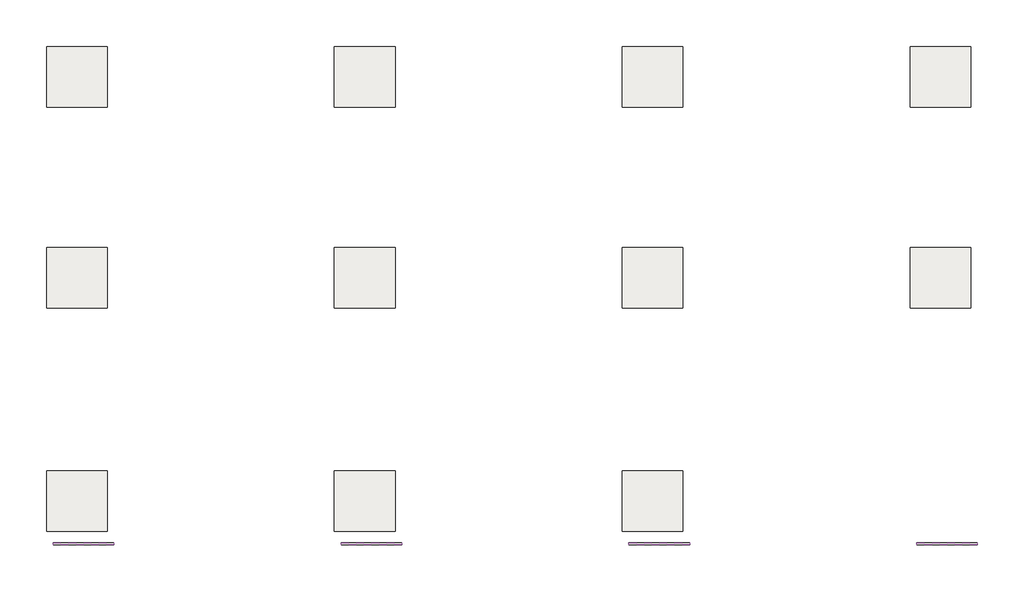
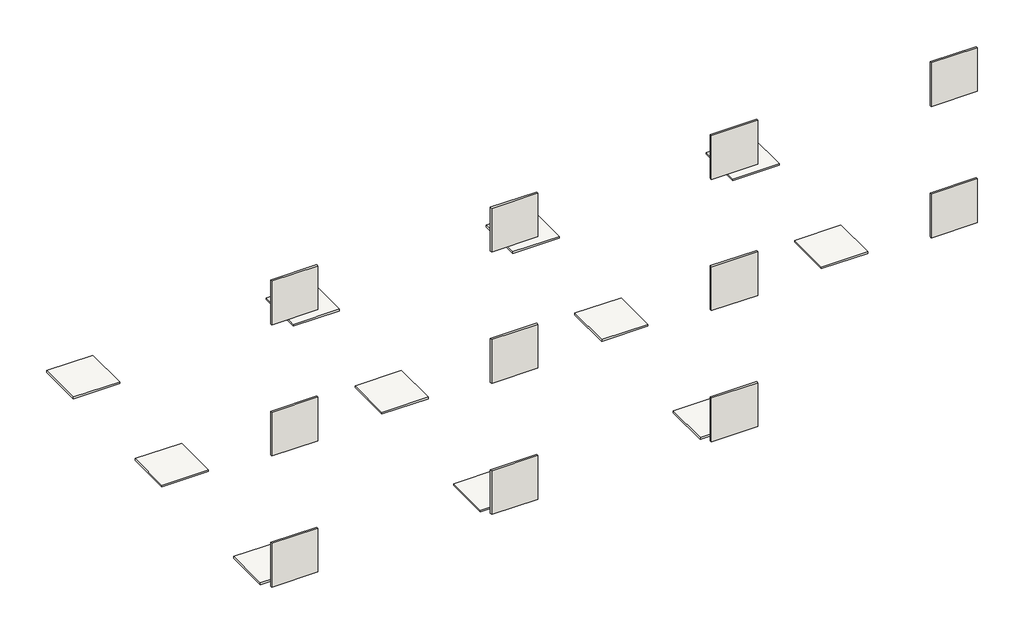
# One storey: 11 slabs, 11 walls.
"""IFC4 building model written with IfcOpenShell, lengths in millimetres."""

from ifc_helpers import new_model, si_unit, frame, origin, origin_with_axes, place, context, project, spatial, polyline, outline, extrude, element, save

model = new_model("IFC4")

# Units and contexts
model_context = context("Model", 3, world=origin())
ifc_project = project(units=[si_unit("LENGTHUNIT", "METRE", prefix="MILLI")], contexts=[model_context])

# Site, building, storey
site = spatial("IfcSite", under=ifc_project)
building = spatial("IfcBuilding", under=site)
storey = spatial("IfcBuildingStorey", under=building, Name="SVENSKA FLOOR TILES", Elevation=0.0)

# Slabs
placement = place(None, origin())
element("IfcSlab", 1, ObjectType="VIVES - BLOMKNOPP BONE 20x20", at=placement, inside=storey, context=model_context, shape_type="SweptSolid", body=[
    extrude(outline(polyline([(177.760057, 778.9042777), (-22.239943, 778.9042777), (-22.239943, 978.9042777), (177.760057, 978.9042777), (177.760057, 778.9042777)])), frame((0.0, 0.0, -8.0), z_axis=(0.0, 0.0, 1.0), x_axis=(1.0, 0.0, 0.0)), (0.0, 0.0, 1.0), 8.0),
])
element("IfcSlab", 2, ObjectType="VIVES - BLOMKNOPP SIENA 20x20", at=placement, inside=storey, context=model_context, shape_type="SweptSolid", body=[
    extrude(outline(polyline([(1127.760057, 778.9042777), (927.760057, 778.9042777), (927.760057, 978.9042777), (1127.760057, 978.9042777), (1127.760057, 778.9042777)])), frame((0.0, 0.0, -8.0), z_axis=(0.0, 0.0, 1.0), x_axis=(1.0, 0.0, 0.0)), (0.0, 0.0, 1.0), 8.0),
])
element("IfcSlab", 3, ObjectType="VIVES - ETT 20x20", at=placement, inside=storey, context=model_context, shape_type="SweptSolid", body=[
    extrude(outline(polyline([(2077.760057, 41.4854297), (1877.760057, 41.4854297), (1877.760057, 241.4854297), (2077.760057, 241.4854297), (2077.760057, 41.4854297)])), frame((0.0, 0.0, -8.0), z_axis=(0.0, 0.0, 1.0), x_axis=(1.0, 0.0, 0.0)), (0.0, 0.0, 1.0), 8.0),
])
element("IfcSlab", 4, ObjectType="VIVES - HALVMANE 20x20", at=placement, inside=storey, context=model_context, shape_type="SweptSolid", body=[
    extrude(outline(polyline([(177.760057, 41.4854297), (-22.239943, 41.4854297), (-22.239943, 241.4854297), (177.760057, 241.4854297), (177.760057, 41.4854297)])), frame((0.0, 0.0, -8.0), z_axis=(0.0, 0.0, 1.0), x_axis=(1.0, 0.0, 0.0)), (0.0, 0.0, 1.0), 8.0),
])
element("IfcSlab", 5, ObjectType="VIVES - JOLEJON 20x20", at=placement, inside=storey, context=model_context, shape_type="SweptSolid", body=[
    extrude(outline(polyline([(3027.760057, 778.9042777), (2827.760057, 778.9042777), (2827.760057, 978.9042777), (3027.760057, 978.9042777), (3027.760057, 778.9042777)])), frame((0.0, 0.0, -8.0), z_axis=(0.0, 0.0, 1.0), x_axis=(1.0, 0.0, 0.0)), (0.0, 0.0, 1.0), 8.0),
])
element("IfcSlab", 6, ObjectType="VIVES - JUVEL 20x20", at=placement, inside=storey, context=model_context, shape_type="SweptSolid", body=[
    extrude(outline(polyline([(1127.760057, 41.4854297), (927.760057, 41.4854297), (927.760057, 241.4854297), (1127.760057, 241.4854297), (1127.760057, 41.4854297)])), frame((0.0, 0.0, -8.0), z_axis=(0.0, 0.0, 1.0), x_axis=(1.0, 0.0, 0.0)), (0.0, 0.0, 1.0), 8.0),
])
element("IfcSlab", 7, ObjectType="VIVES - TULPAN 20x20", at=placement, inside=storey, context=model_context, shape_type="SweptSolid", body=[
    extrude(outline(polyline([(2077.760057, 778.9042777), (1877.760057, 778.9042777), (1877.760057, 978.9042777), (2077.760057, 978.9042777), (2077.760057, 778.9042777)])), frame((0.0, 0.0, -8.0), z_axis=(0.0, 0.0, 1.0), x_axis=(1.0, 0.0, 0.0)), (0.0, 0.0, 1.0), 8.0),
])
element("IfcSlab", 8, ObjectType="VIVES - TRE ANTRACITA 20x20", at=placement, inside=storey, context=model_context, shape_type="SweptSolid", body=[
    extrude(outline(polyline([(177.760057, 1442.6711529), (-22.239943, 1442.6711529), (-22.239943, 1642.6711529), (177.760057, 1642.6711529), (177.760057, 1442.6711529)])), frame((0.0, 0.0, -8.0), z_axis=(0.0, 0.0, 1.0), x_axis=(1.0, 0.0, 0.0)), (0.0, 0.0, 1.0), 8.0),
])
element("IfcSlab", 9, ObjectType="VIVES - TRE HUMO 20x20", at=placement, inside=storey, context=model_context, shape_type="SweptSolid", body=[
    extrude(outline(polyline([(1127.760057, 1442.6711529), (927.760057, 1442.6711529), (927.760057, 1642.6711529), (1127.760057, 1642.6711529), (1127.760057, 1442.6711529)])), frame((0.0, 0.0, -8.0), z_axis=(0.0, 0.0, 1.0), x_axis=(1.0, 0.0, 0.0)), (0.0, 0.0, 1.0), 8.0),
])
element("IfcSlab", 10, ObjectType="VIVES - TRE JADE 20x20", at=placement, inside=storey, context=model_context, shape_type="SweptSolid", body=[
    extrude(outline(polyline([(2077.760057, 1442.6711529), (1877.760057, 1442.6711529), (1877.760057, 1642.6711529), (2077.760057, 1642.6711529), (2077.760057, 1442.6711529)])), frame((0.0, 0.0, -8.0), z_axis=(0.0, 0.0, 1.0), x_axis=(1.0, 0.0, 0.0)), (0.0, 0.0, 1.0), 8.0),
])
element("IfcSlab", 11, ObjectType="VIVES - TRE NUBE 20x20", at=placement, inside=storey, context=model_context, shape_type="SweptSolid", body=[
    extrude(outline(polyline([(3027.760057, 1442.6711529), (2827.760057, 1442.6711529), (2827.760057, 1642.6711529), (3027.760057, 1642.6711529), (3027.760057, 1442.6711529)])), frame((0.0, 0.0, -8.0), z_axis=(0.0, 0.0, 1.0), x_axis=(1.0, 0.0, 0.0)), (0.0, 0.0, 1.0), 8.0),
])

# Walls
element("IfcWall", 12, ObjectType="VIVES - ETT 20x20", at=placement, inside=storey, context=model_context, shape_type="SweptSolid", body=[
    extrude(outline(polyline([(2100.0, -4.0), (1900.0, -4.0), (1900.0, 4.0), (2100.0, 4.0), (2100.0, -4.0)])), origin_with_axes(), (0.0, 0.0, 1.0), 200.0),
])
element("IfcWall", 13, ObjectType="VIVES - HALVMANE 20x20", at=placement, inside=storey, context=model_context, shape_type="SweptSolid", body=[
    extrude(outline(polyline([(200.0, -4.0), (0.0, -4.0), (0.0, 4.0), (200.0, 4.0), (200.0, -4.0)])), origin_with_axes(), (0.0, 0.0, 1.0), 200.0),
])
element("IfcWall", 14, ObjectType="VIVES - JUVEL 20x20", at=placement, inside=storey, context=model_context, shape_type="SweptSolid", body=[
    extrude(outline(polyline([(1150.0, -4.0), (950.0, -4.0), (950.0, 4.0), (1150.0, 4.0), (1150.0, -4.0)])), origin_with_axes(), (0.0, 0.0, 1.0), 200.0),
])
element("IfcWall", 15, ObjectType="VIVES - TRE ANTRACITA 20x20", at=placement, inside=storey, context=model_context, shape_type="SweptSolid", body=[
    extrude(outline(polyline([(200.0, -4.0), (0.0, -4.0), (0.0, 4.0), (200.0, 4.0), (200.0, -4.0)])), frame((0.0, 0.0, 1200.0), z_axis=(0.0, 0.0, 1.0), x_axis=(1.0, 0.0, 0.0)), (0.0, 0.0, 1.0), 200.0),
])
element("IfcWall", 16, ObjectType="VIVES - TRE HUMO 20x20", at=placement, inside=storey, context=model_context, shape_type="SweptSolid", body=[
    extrude(outline(polyline([(1150.0, -4.0), (950.0, -4.0), (950.0, 4.0), (1150.0, 4.0), (1150.0, -4.0)])), frame((0.0, 0.0, 1200.0), z_axis=(0.0, 0.0, 1.0), x_axis=(1.0, 0.0, 0.0)), (0.0, 0.0, 1.0), 200.0),
])
element("IfcWall", 17, ObjectType="VIVES - TRE JADE 20x20", at=placement, inside=storey, context=model_context, shape_type="SweptSolid", body=[
    extrude(outline(polyline([(2100.0, -4.0), (1900.0, -4.0), (1900.0, 4.0), (2100.0, 4.0), (2100.0, -4.0)])), frame((0.0, 0.0, 1200.0), z_axis=(0.0, 0.0, 1.0), x_axis=(1.0, 0.0, 0.0)), (0.0, 0.0, 1.0), 200.0),
])
element("IfcWall", 18, ObjectType="VIVES - TRE NUBE 20x20", at=placement, inside=storey, context=model_context, shape_type="SweptSolid", body=[
    extrude(outline(polyline([(3050.0, -4.0), (2850.0, -4.0), (2850.0, 4.0), (3050.0, 4.0), (3050.0, -4.0)])), frame((0.0, 0.0, 1200.0), z_axis=(0.0, 0.0, 1.0), x_axis=(1.0, 0.0, 0.0)), (0.0, 0.0, 1.0), 200.0),
])
element("IfcWall", 19, ObjectType="VIVES - BLOMKNOPP BONE 20x20", at=placement, inside=storey, context=model_context, shape_type="SweptSolid", body=[
    extrude(outline(polyline([(200.0, -4.0), (0.0, -4.0), (0.0, 4.0), (200.0, 4.0), (200.0, -4.0)])), frame((0.0, 0.0, 600.0), z_axis=(0.0, 0.0, 1.0), x_axis=(1.0, 0.0, 0.0)), (0.0, 0.0, 1.0), 200.0),
])
element("IfcWall", 20, ObjectType="VIVES - BLOMKNOPP SIENA 20x20", at=placement, inside=storey, context=model_context, shape_type="SweptSolid", body=[
    extrude(outline(polyline([(1150.0, -4.0), (950.0, -4.0), (950.0, 4.0), (1150.0, 4.0), (1150.0, -4.0)])), frame((0.0, 0.0, 600.0), z_axis=(0.0, 0.0, 1.0), x_axis=(1.0, 0.0, 0.0)), (0.0, 0.0, 1.0), 200.0),
])
element("IfcWall", 21, ObjectType="VIVES - JOLEJON 20x20", at=placement, inside=storey, context=model_context, shape_type="SweptSolid", body=[
    extrude(outline(polyline([(3050.0, -4.0), (2850.0, -4.0), (2850.0, 4.0), (3050.0, 4.0), (3050.0, -4.0)])), frame((0.0, 0.0, 600.0), z_axis=(0.0, 0.0, 1.0), x_axis=(1.0, 0.0, 0.0)), (0.0, 0.0, 1.0), 200.0),
])
element("IfcWall", 22, ObjectType="VIVES - TULPAN 20x20", at=placement, inside=storey, context=model_context, shape_type="SweptSolid", body=[
    extrude(outline(polyline([(2100.0, -4.0), (1900.0, -4.0), (1900.0, 4.0), (2100.0, 4.0), (2100.0, -4.0)])), frame((0.0, 0.0, 600.0), z_axis=(0.0, 0.0, 1.0), x_axis=(1.0, 0.0, 0.0)), (0.0, 0.0, 1.0), 200.0),
])

save(model, "model.ifc")
